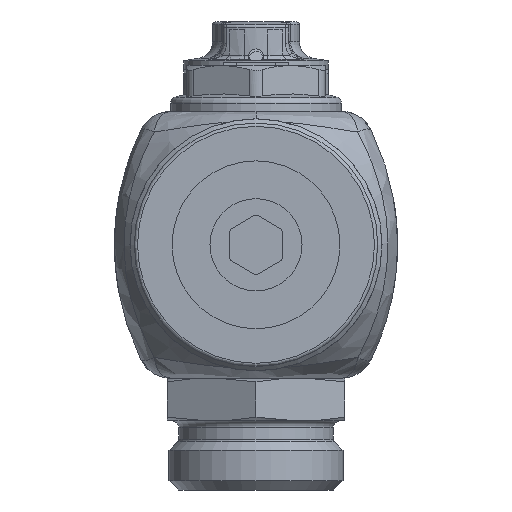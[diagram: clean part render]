
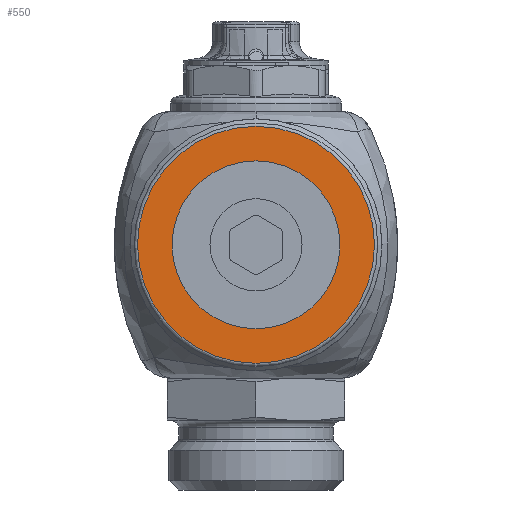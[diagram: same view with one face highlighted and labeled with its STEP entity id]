
A CAD part, front view. The second image highlights one B-rep face of the part: STEP entity #550.
In plain terms, the highlighted planar face has unit normal (0, -1, 0).
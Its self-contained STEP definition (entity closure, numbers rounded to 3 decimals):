
#550=ADVANCED_FACE('',(#15163,#15165),#15167,.F.);
#15163=FACE_BOUND('',#15164,.T.);
#15164=EDGE_LOOP('',(#18495));
#15165=FACE_BOUND('',#15166,.T.);
#15166=EDGE_LOOP('',(#18496));
#15167=PLANE('',#15168);
#15168=AXIS2_PLACEMENT_3D('',#15169,#15170,#15171);
#15169=CARTESIAN_POINT('',(0.,-195.75,0.));
#15170=DIRECTION('',(0.,1.,0.));
#15171=DIRECTION('',(-1.,0.,0.));
#18495=ORIENTED_EDGE('',*,*,#26005,.T.);
#18496=ORIENTED_EDGE('',*,*,#26042,.T.);
#26005=EDGE_CURVE('',#29131,#29131,#29132,.T.);
#26042=EDGE_CURVE('',#29194,#29194,#29195,.F.);
#29131=VERTEX_POINT('',#44149);
#29132=CIRCLE('',#44150,18.);
#29194=VERTEX_POINT('',#44302);
#29195=CIRCLE('',#44303,12.75);
#44149=CARTESIAN_POINT('',(18.,-195.75,0.));
#44150=AXIS2_PLACEMENT_3D('',#44151,#44152,#44153);
#44151=CARTESIAN_POINT('',(0.,-195.75,0.));
#44152=DIRECTION('',(0.,-1.,0.));
#44153=DIRECTION('',(1.,0.,0.));
#44302=CARTESIAN_POINT('',(12.75,-195.75,0.));
#44303=AXIS2_PLACEMENT_3D('',#44304,#44305,#44306);
#44304=CARTESIAN_POINT('',(0.,-195.75,0.));
#44305=DIRECTION('',(0.,-1.,0.));
#44306=DIRECTION('',(1.,0.,0.));
